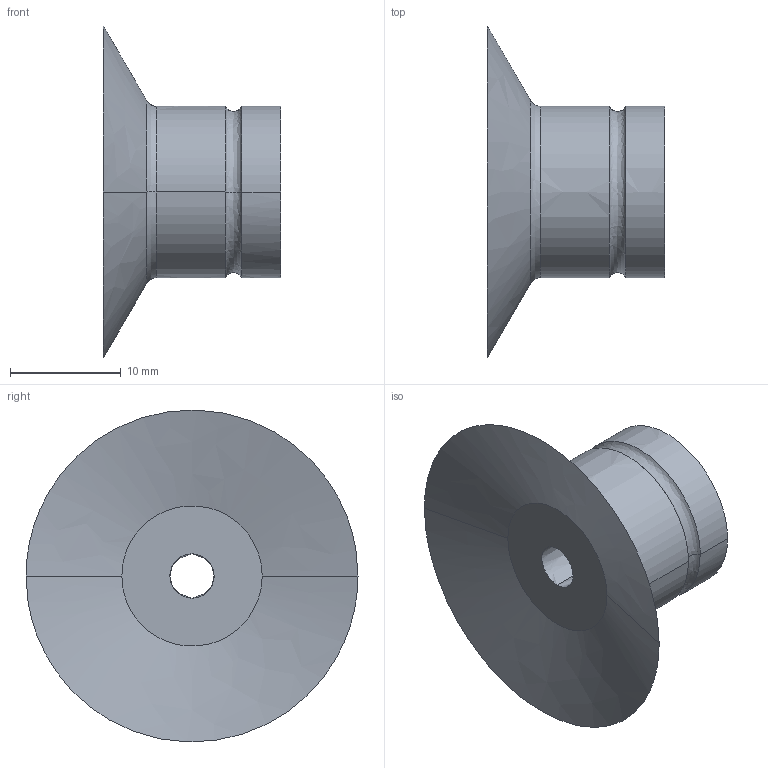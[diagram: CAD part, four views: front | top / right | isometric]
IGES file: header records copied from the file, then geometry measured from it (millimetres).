
Start section:  PTC IGES file: 210195_vaph-30c.igs
Global section: file name: 210195_vaph-30c.igs; native system: Pro/ENGINEER by Parametric Technology Corporation; preprocessor: 2004090; author: KAIHATSU01; organization: Unknown; date: 061017.104757; units: millimetre
Bounding box: 16 x 30 x 29.99 mm (x, y, z)
Volume: 2649.5 mm3; surface area: 2497.2 mm2
Topology: 1 solids, 1 shells, 24 faces, 48 edges, 28 vertices
Faces by surface type: bspline 24
